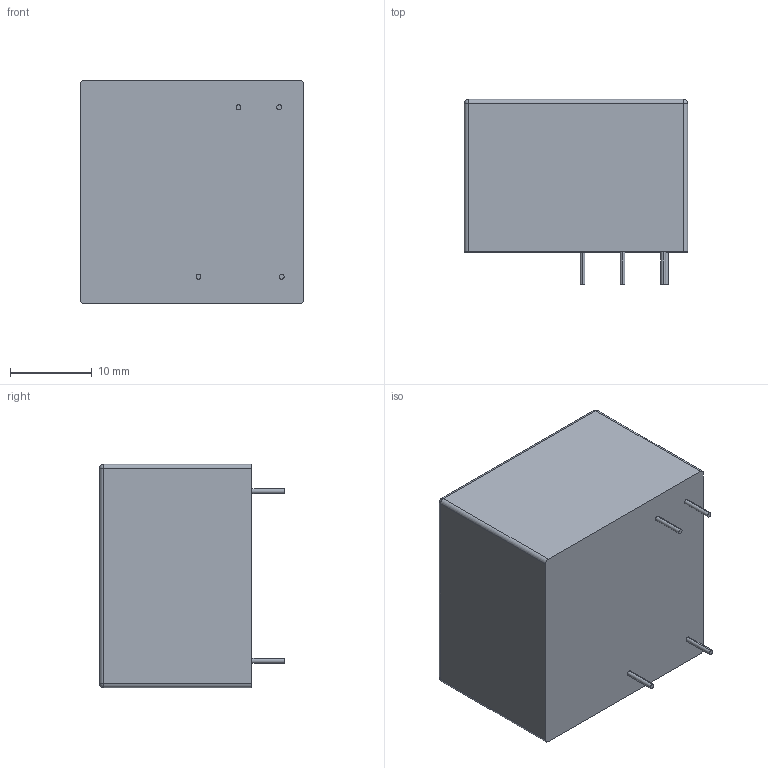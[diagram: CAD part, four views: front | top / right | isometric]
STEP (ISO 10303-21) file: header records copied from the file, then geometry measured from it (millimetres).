
FILE_DESCRIPTION (( 'STEP AP214' ), '1' );
FILE_NAME ('VTX-214-007-1xx.STEP', '2022-03-16T15:55:47', ( '' ), ( '' ), 'SwSTEP 2.0', 'SolidWorks 2022', '' );
FILE_SCHEMA (( 'AUTOMOTIVE_DESIGN' ));
Length unit declared in the file: millimetre
Products named in the file (1): VTX-214-007-1xx
Bounding box: 27.4 x 22.71 x 27.4 mm (x, y, z)
Volume: 14034.3 mm3; surface area: 3544.1 mm2
Topology: 1 solids, 1 shells, 452 faces, 1177 edges, 778 vertices
Faces by surface type: plane 302, bspline 130, cylinder 16, sphere 4
Entity records: 25127 total; most frequent: CARTESIAN_POINT 10166, ORIENTED_EDGE 2346, DIRECTION 1591, EDGE_CURVE 1173, VECTOR 881, LINE 881, VERTEX_POINT 778, EDGE_LOOP 507
